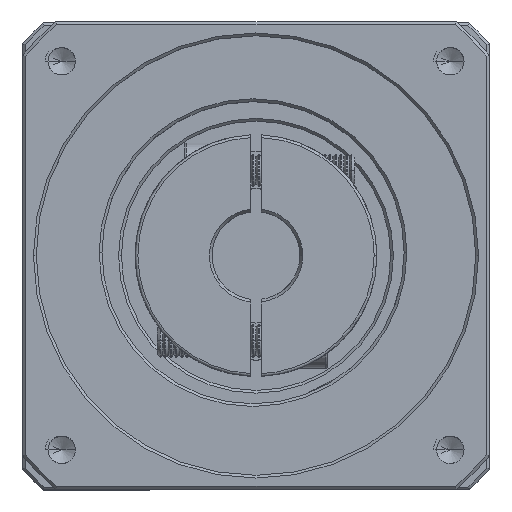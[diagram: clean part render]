
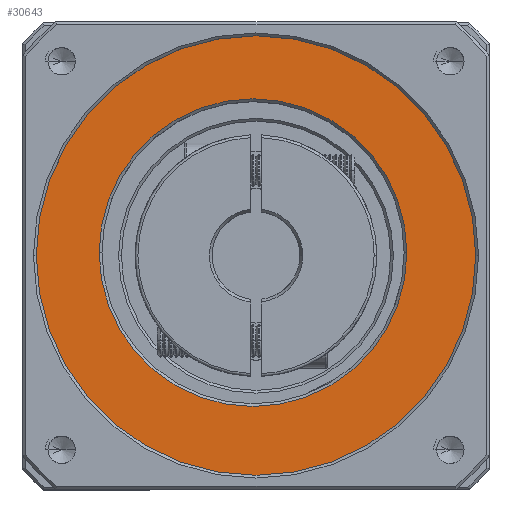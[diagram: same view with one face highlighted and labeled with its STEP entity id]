
A CAD part, top view. The second image highlights one B-rep face of the part: STEP entity #30643.
In plain terms, the highlighted planar face has unit normal (0, 0, 1).
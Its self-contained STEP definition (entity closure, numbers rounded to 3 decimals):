
#153 = EDGE_CURVE ( 'NONE', #25317, #9556, #46208, .T. ) ;
#258 = CARTESIAN_POINT ( 'NONE',  ( -88.893, 24.356, 6.287 ) ) ;
#6005 = DIRECTION ( 'NONE',  ( 0., 0., 1. ) ) ;
#8735 = DIRECTION ( 'NONE',  ( 1., 0., 0. ) ) ;
#9556 = VERTEX_POINT ( 'NONE', #57209 ) ;
#11059 = EDGE_LOOP ( 'NONE', ( #54983, #65709 ) ) ;
#13733 = AXIS2_PLACEMENT_3D ( 'NONE', #258, #59551, #8735 ) ;
#25317 = VERTEX_POINT ( 'NONE', #93503 ) ;
#28680 = EDGE_LOOP ( 'NONE', ( #29858, #47162 ) ) ;
#29858 = ORIENTED_EDGE ( 'NONE', *, *, #108291, .T. ) ;
#30643 = ADVANCED_FACE ( 'NONE', ( #99518, #54371 ), #74942, .T. ) ;
#35358 = CARTESIAN_POINT ( 'NONE',  ( -89.435, 24.89, 6.287 ) ) ;
#38755 = VERTEX_POINT ( 'NONE', #58802 ) ;
#43939 = DIRECTION ( 'NONE',  ( 1., 0., 0. ) ) ;
#44211 = CIRCLE ( 'NONE', #13733, 40. ) ;
#46208 = CIRCLE ( 'NONE', #63507, 28. ) ;
#47162 = ORIENTED_EDGE ( 'NONE', *, *, #82745, .T. ) ;
#50641 = CARTESIAN_POINT ( 'NONE',  ( -48.893, 24.356, 6.287 ) ) ;
#51874 = CIRCLE ( 'NONE', #66107, 40. ) ;
#54371 = FACE_BOUND ( 'NONE', #11059, .T. ) ;
#54983 = ORIENTED_EDGE ( 'NONE', *, *, #98506, .T. ) ;
#56818 = CARTESIAN_POINT ( 'NONE',  ( -88.893, 24.356, 6.287 ) ) ;
#57209 = CARTESIAN_POINT ( 'NONE',  ( -61.435, 24.89, 6.287 ) ) ;
#58802 = CARTESIAN_POINT ( 'NONE',  ( -128.893, 24.356, 6.287 ) ) ;
#59551 = DIRECTION ( 'NONE',  ( 0., 0., 1. ) ) ;
#63507 = AXIS2_PLACEMENT_3D ( 'NONE', #103524, #103380, #103254 ) ;
#64839 = VERTEX_POINT ( 'NONE', #50641 ) ;
#65413 = DIRECTION ( 'NONE',  ( 1., 0., 0. ) ) ;
#65709 = ORIENTED_EDGE ( 'NONE', *, *, #153, .T. ) ;
#66107 = AXIS2_PLACEMENT_3D ( 'NONE', #56818, #6005, #65413 ) ;
#74018 = DIRECTION ( 'NONE',  ( 1., 0., 0. ) ) ;
#74139 = DIRECTION ( 'NONE',  ( 0., 0., 1. ) ) ;
#74214 = CARTESIAN_POINT ( 'NONE',  ( -88.893, 24.356, 6.287 ) ) ;
#74942 = PLANE ( 'NONE',  #99807 ) ;
#78836 = AXIS2_PLACEMENT_3D ( 'NONE', #35358, #94866, #43939 ) ;
#82745 = EDGE_CURVE ( 'NONE', #38755, #64839, #44211, .T. ) ;
#89589 = CIRCLE ( 'NONE', #78836, 28. ) ;
#93503 = CARTESIAN_POINT ( 'NONE',  ( -117.435, 24.89, 6.287 ) ) ;
#94866 = DIRECTION ( 'NONE',  ( 0., 0., -1. ) ) ;
#98506 = EDGE_CURVE ( 'NONE', #9556, #25317, #89589, .T. ) ;
#99518 = FACE_OUTER_BOUND ( 'NONE', #28680, .T. ) ;
#99807 = AXIS2_PLACEMENT_3D ( 'NONE', #74214, #74139, #74018 ) ;
#103254 = DIRECTION ( 'NONE',  ( 1., 0., 0. ) ) ;
#103380 = DIRECTION ( 'NONE',  ( 0., 0., -1. ) ) ;
#103524 = CARTESIAN_POINT ( 'NONE',  ( -89.435, 24.89, 6.287 ) ) ;
#108291 = EDGE_CURVE ( 'NONE', #64839, #38755, #51874, .T. ) ;
